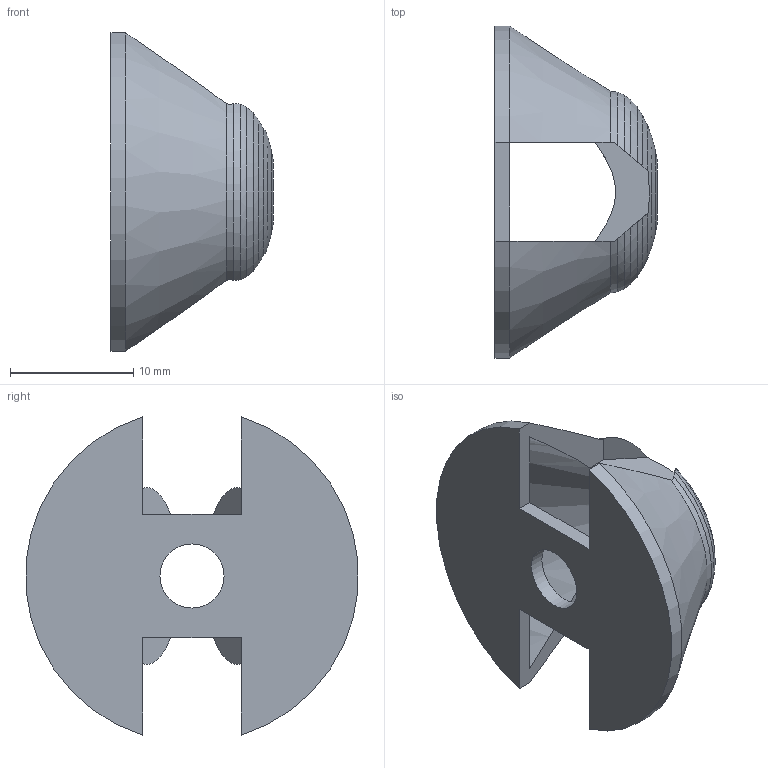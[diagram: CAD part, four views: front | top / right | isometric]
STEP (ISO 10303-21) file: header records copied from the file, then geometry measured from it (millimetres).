
FILE_DESCRIPTION(('Open CASCADE Model'),'2;1');
FILE_NAME('Open CASCADE Shape Model','2026-10-04T21:26:22',('Author'),( 'Open CASCADE'),'Open CASCADE STEP processor 7.9','Open CASCADE 7.9' ,'Unknown');
FILE_SCHEMA(('AUTOMOTIVE_DESIGN { 1 0 10303 214 1 1 1 1 }'));
Length unit declared in the file: millimetre
Products named in the file (1): Open CASCADE STEP translator 7.9 24
Bounding box: 13.14 x 26.9 x 25.79 mm (x, y, z)
Volume: 1519.3 mm3; surface area: 2295.5 mm2
Topology: 1 solids, 1 shells, 36 faces, 112 edges, 74 vertices
Faces by surface type: cone 18, plane 14, cylinder 4
Full cylindrical faces by diameter (mm): 5.2 x2
Entity records: 2895 total; most frequent: CARTESIAN_POINT 843, DIRECTION 367, ORIENTED_EDGE 224, PCURVE 224, DEFINITIONAL_REPRESENTATION 224, LINE 133, VECTOR 133, EDGE_CURVE 112
